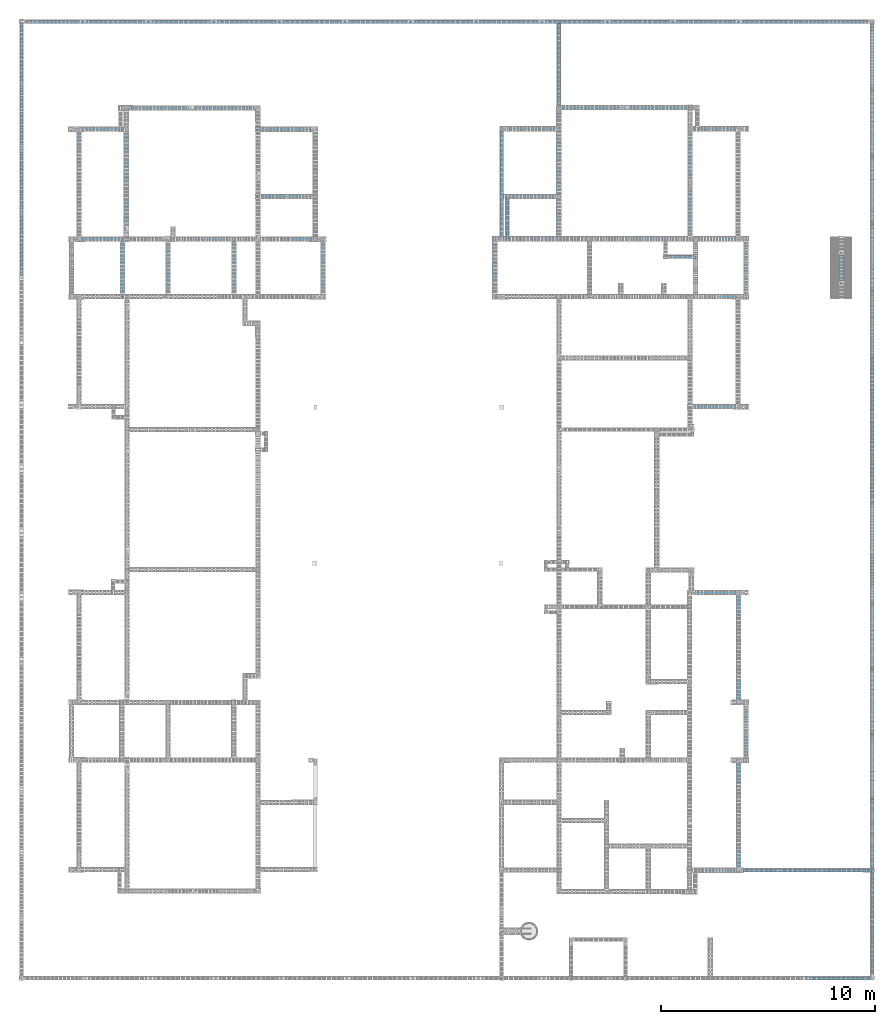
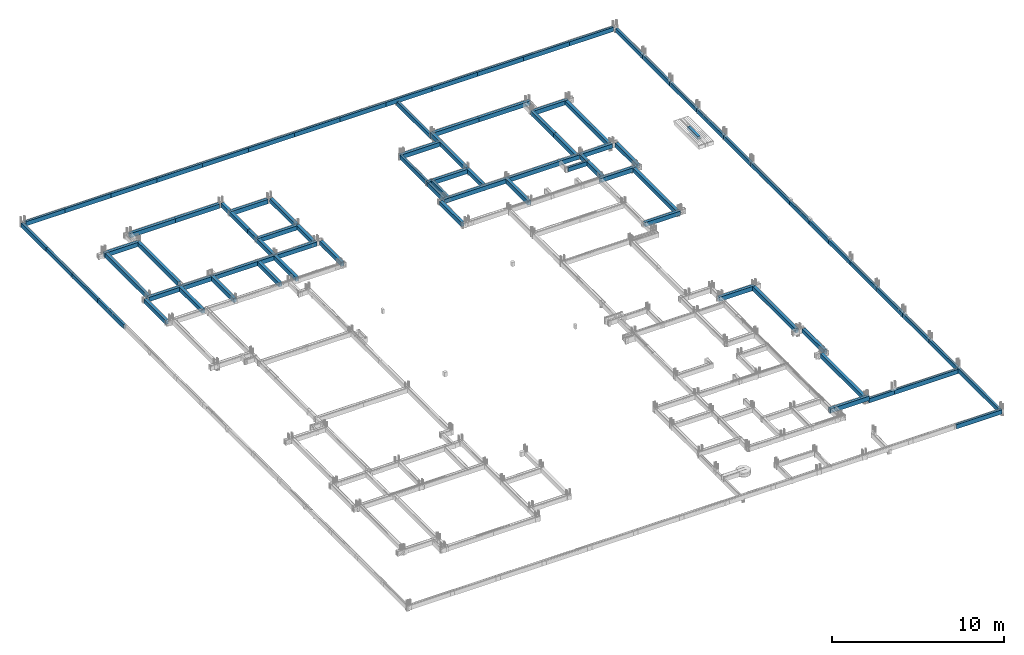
# One storey, part 4 of 150: 84 beams.
"""IFC4 building model written with IfcOpenShell, lengths in centimetres."""

from ifc_helpers import new_model, si_unit, derived_unit, frame, origin_with_axes, origin_2d_with_axis, place, context, project, spatial, rectangle, extrude, material, element, save


model = new_model("IFC4")

# Units and contexts
model_context = context("Model", 3, precision=1e-05, world=origin_with_axes(), identifier="Body")
ifc_project = project(units=[si_unit("LENGTHUNIT", "METRE", prefix="CENTI"), si_unit("VOLUMEUNIT", "CUBIC_METRE"), si_unit("AREAUNIT", "SQUARE_METRE"), si_unit("POWERUNIT", "WATT"), si_unit("LUMINOUSFLUXUNIT", "LUMEN"), si_unit("ELECTRICCURRENTUNIT", "AMPERE"), si_unit("PRESSUREUNIT", "PASCAL", prefix="KILO"), si_unit("MASSUNIT", "GRAM", prefix="KILO"), si_unit("PLANEANGLEUNIT", "RADIAN"), derived_unit("VOLUMETRICFLOWRATEUNIT", [(si_unit("LENGTHUNIT", "METRE"), 3), (si_unit("TIMEUNIT", "SECOND"), -1)])], contexts=[model_context])

# Site, building, storey
site_placement = place(None, frame((-4000.0, 0.0, 0.0), z_axis=(0.0, 0.0, 1.0), x_axis=(1.0, 0.0, 0.0)))
site = spatial("IfcSite", under=ifc_project, at=site_placement, Name="PADRÃO")
building_placement = place(site_placement, frame((0.0, 0.0, -14.0)))
building = spatial("IfcBuilding", under=site, at=building_placement, Name="CRECHE PRÉ-ESCOLA TIPO 2")
placement = place(building_placement, origin_with_axes())
storey_placement = place(placement, frame((0.0, 0.0, 30.0), z_axis=(0.0, 0.0, 1.0), x_axis=(1.0, 0.0, 0.0)))
storey = spatial("IfcBuildingStorey", under=building, at=storey_placement, Name="VIGA BALDRAME", CompositionType="ELEMENT", Elevation=16.0)

# Beams
ifc_material = material(Name="Concreto")
beam_1_placement = place(storey_placement, frame((2289.995, 4486.5, 0.0), z_axis=(0.0, 0.0, 1.0), x_axis=(1.0, 0.0, 0.0)))
element("IfcBeam", 1, at=beam_1_placement, inside=storey, material=ifc_material, Name="V101", context=model_context, shape_type="SolidModel", body=[
    extrude(rectangle(XDim=15.0, YDim=30.0, at=origin_2d_with_axis()), frame((-154.005, 0.0, -15.0), z_axis=(1.0, 0.0, 0.0), x_axis=(0.0, 1.0, 0.0)), (0.0, 0.0, 1.0), 308.01),
])
for number, where, z_axis, x_axis, name in (
    (2, (1369.5, 4486.5, 0.0), (0.0, 0.0, 1.0), (1.0, 0.0, 0.0), "V101"),
    (3, (1062.5, 4486.5, 0.0), (0.0, 0.0, 1.0), (1.0, 0.0, 0.0), "V101"),
    (4, (755.5, 4486.5, 0.0), (0.0, 0.0, 1.0), (1.0, 0.0, 0.0), "V101"),
):
    element("IfcBeam", number, at=place(storey_placement, frame(where, z_axis=z_axis, x_axis=x_axis)), inside=storey, material=ifc_material, Name=name, context=model_context, shape_type="SolidModel", body=[
        extrude(rectangle(XDim=15.0, YDim=30.0, at=origin_2d_with_axis()), frame((-153.5, 0.0, -15.0), z_axis=(1.0, 0.0, 0.0), x_axis=(0.0, 1.0, 0.0)), (0.0, 0.0, 1.0), 307.0),
    ])
beam_2_placement = place(storey_placement, frame((1982.995, 4486.5, 0.0), z_axis=(0.0, 0.0, 1.0), x_axis=(1.0, 0.0, 0.0)))
element("IfcBeam", 5, at=beam_2_placement, inside=storey, material=ifc_material, Name="V101", context=model_context, shape_type="SolidModel", body=[
    extrude(rectangle(XDim=15.0, YDim=30.0, at=origin_2d_with_axis()), frame((-152.995, 0.0, -15.0), z_axis=(1.0, 0.0, 0.0), x_axis=(0.0, 1.0, 0.0)), (0.0, 0.0, 1.0), 305.99),
])
for number, where, z_axis, x_axis, name in (
    (6, (448.5, 4486.5, 0.0), (0.0, 0.0, 1.0), (1.0, 0.0, 0.0), "V101"),
    (7, (3518.5, 4486.5, 0.0), (0.0, 0.0, 1.0), (1.0, 0.0, 0.0), "V101"),
):
    element("IfcBeam", number, at=place(storey_placement, frame(where, z_axis=z_axis, x_axis=x_axis)), inside=storey, material=ifc_material, Name=name, context=model_context, shape_type="SolidModel", body=[
        extrude(rectangle(XDim=15.0, YDim=30.0, at=origin_2d_with_axis()), frame((-153.5, 0.0, -15.0), z_axis=(1.0, 0.0, 0.0), x_axis=(0.0, 1.0, 0.0)), (0.0, 0.0, 1.0), 307.0),
    ])
beam_3_placement = place(storey_placement, frame((3820.5, 4486.5, 0.0), z_axis=(0.0, 0.0, 1.0), x_axis=(1.0, 0.0, 0.0)))
element("IfcBeam", 8, at=beam_3_placement, inside=storey, material=ifc_material, Name="V101", context=model_context, shape_type="SolidModel", body=[
    extrude(rectangle(XDim=15.0, YDim=30.0, at=origin_2d_with_axis()), frame((-148.5, 0.0, -15.0), z_axis=(1.0, 0.0, 0.0), x_axis=(0.0, 1.0, 0.0)), (0.0, 0.0, 1.0), 297.0),
])
for number, where, z_axis, x_axis, name in (
    (9, (1676.5, 4486.5, 0.0), (0.0, 0.0, 1.0), (1.0, 0.0, 0.0), "V101"),
    (10, (3211.5, 4486.5, 0.0), (0.0, 0.0, 1.0), (1.0, 0.0, 0.0), "V101"),
    (11, (2904.5, 4486.5, 0.0), (0.0, 0.0, 1.0), (1.0, 0.0, 0.0), "V101"),
    (12, (2597.5, 4486.5, 0.0), (0.0, 0.0, 1.0), (1.0, 0.0, 0.0), "V101"),
):
    element("IfcBeam", number, at=place(storey_placement, frame(where, z_axis=z_axis, x_axis=x_axis)), inside=storey, material=ifc_material, Name=name, context=model_context, shape_type="SolidModel", body=[
        extrude(rectangle(XDim=15.0, YDim=30.0, at=origin_2d_with_axis()), frame((-153.5, 0.0, -15.0), z_axis=(1.0, 0.0, 0.0), x_axis=(0.0, 1.0, 0.0)), (0.0, 0.0, 1.0), 307.0),
    ])
beam_4_placement = place(storey_placement, frame((163.25, 4486.5, 0.0), z_axis=(0.0, 0.0, 1.0), x_axis=(1.0, 0.0, 0.0)))
element("IfcBeam", 13, at=beam_4_placement, inside=storey, material=ifc_material, Name="V101", context=model_context, shape_type="SolidModel", body=[
    extrude(rectangle(XDim=15.0, YDim=30.0, at=origin_2d_with_axis()), frame((-131.75, 0.0, -15.0), z_axis=(1.0, 0.0, 0.0), x_axis=(0.0, 1.0, 0.0)), (0.0, 0.0, 1.0), 263.5),
])
beam_5_placement = place(storey_placement, frame((947.28, 4082.49, 0.0), z_axis=(0.0, 0.0, 1.0), x_axis=(1.0, 0.0, 0.0)))
element("IfcBeam", 14, at=beam_5_placement, inside=storey, material=ifc_material, Name="V102", context=model_context, shape_type="SolidModel", body=[
    extrude(rectangle(XDim=20.0, YDim=30.0, at=origin_2d_with_axis()), frame((-147.43, 0.0, -15.0), z_axis=(1.0, 0.0, 0.0), x_axis=(0.0, 1.0, 0.0)), (0.0, 0.0, 1.0), 294.86),
])
beam_6_placement = place(storey_placement, frame((647.26, 4082.49, 0.0), z_axis=(0.0, 0.0, 1.0), x_axis=(1.0, 0.0, 0.0)))
element("IfcBeam", 15, at=beam_6_placement, inside=storey, material=ifc_material, Name="V102", context=model_context, shape_type="SolidModel", body=[
    extrude(rectangle(XDim=20.0, YDim=30.0, at=origin_2d_with_axis()), frame((-152.59, 0.0, -15.0), z_axis=(1.0, 0.0, 0.0), x_axis=(0.0, 1.0, 0.0)), (0.0, 0.0, 1.0), 305.18),
])
beam_7_placement = place(storey_placement, frame((3005.24, 4085.02, 0.0), z_axis=(0.0, 0.0, 1.0), x_axis=(1.0, 0.0, 0.0)))
element("IfcBeam", 16, at=beam_7_placement, inside=storey, material=ifc_material, Name="V103", context=model_context, shape_type="SolidModel", body=[
    extrude(rectangle(XDim=20.0, YDim=30.0, at=origin_2d_with_axis()), frame((-173.26, 0.0, -15.0), z_axis=(1.0, 0.0, 0.0), x_axis=(0.0, 1.0, 0.0)), (0.0, 0.0, 1.0), 346.52),
])
beam_8_placement = place(storey_placement, frame((2680.74, 4085.02, 0.0), z_axis=(0.0, 0.0, 1.0), x_axis=(1.0, 0.0, 0.0)))
element("IfcBeam", 17, at=beam_8_placement, inside=storey, material=ifc_material, Name="V103", context=model_context, shape_type="SolidModel", body=[
    extrude(rectangle(XDim=20.0, YDim=30.0, at=origin_2d_with_axis()), frame((-151.24, 0.0, -15.0), z_axis=(1.0, 0.0, 0.0), x_axis=(0.0, 1.0, 0.0)), (0.0, 0.0, 1.0), 302.48),
])
beam_9_placement = place(storey_placement, frame((381.835, 3983.75, 0.0), z_axis=(0.0, 0.0, 1.0), x_axis=(1.0, 0.0, 0.0)))
element("IfcBeam", 18, at=beam_9_placement, inside=storey, material=ifc_material, Name="V104", context=model_context, shape_type="SolidModel", body=[
    extrude(rectangle(XDim=20.0, YDim=30.0, at=origin_2d_with_axis()), frame((-114.835, 0.0, -15.0), z_axis=(1.0, 0.0, 0.0), x_axis=(0.0, 1.0, 0.0)), (0.0, 0.0, 1.0), 229.67),
])
beam_10_placement = place(storey_placement, frame((1238.92, 3982.5, 0.0), z_axis=(0.0, 0.0, 1.0), x_axis=(1.0, 0.0, 0.0)))
element("IfcBeam", 19, at=beam_10_placement, inside=storey, material=ifc_material, Name="V105", context=model_context, shape_type="SolidModel", body=[
    extrude(rectangle(XDim=20.0, YDim=30.0, at=origin_2d_with_axis()), frame((-122.92, 0.0, -15.0), z_axis=(1.0, 0.0, 0.0), x_axis=(0.0, 1.0, 0.0)), (0.0, 0.0, 1.0), 245.84),
])
beam_11_placement = place(storey_placement, frame((2383.145, 3985.0, 0.0), z_axis=(0.0, 0.0, 1.0), x_axis=(1.0, 0.0, 0.0)))
element("IfcBeam", 20, at=beam_11_placement, inside=storey, material=ifc_material, Name="V106", context=model_context, shape_type="SolidModel", body=[
    extrude(rectangle(XDim=20.0, YDim=30.0, at=origin_2d_with_axis()), frame((-131.385, 0.0, -15.0), z_axis=(1.0, 0.0, 0.0), x_axis=(0.0, 1.0, 0.0)), (0.0, 0.0, 1.0), 262.77),
])
beam_12_placement = place(storey_placement, frame((3260.25, 3985.01, 0.0), z_axis=(0.0, 0.0, 1.0), x_axis=(1.0, 0.0, 0.0)))
element("IfcBeam", 21, at=beam_12_placement, inside=storey, material=ifc_material, Name="V107", context=model_context, shape_type="SolidModel", body=[
    extrude(rectangle(XDim=20.0, YDim=30.0, at=origin_2d_with_axis()), frame((-114.75, 0.0, -15.0), z_axis=(1.0, 0.0, 0.0), x_axis=(0.0, 1.0, 0.0)), (0.0, 0.0, 1.0), 229.5),
])
beam_13_placement = place(storey_placement, frame((1253.92, 3667.57, 0.0), z_axis=(0.0, 0.0, 1.0), x_axis=(1.0, 0.0, 0.0)))
element("IfcBeam", 22, at=beam_13_placement, inside=storey, material=ifc_material, Name="V108", context=model_context, shape_type="SolidModel", body=[
    extrude(rectangle(XDim=20.0, YDim=30.0, at=origin_2d_with_axis()), frame((-137.92, 0.0, -15.0), z_axis=(1.0, 0.0, 0.0), x_axis=(0.0, 1.0, 0.0)), (0.0, 0.0, 1.0), 275.84),
])
beam_14_placement = place(storey_placement, frame((2389.12945103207, 3667.73458821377, 0.0), z_axis=(0.0, 0.0, 1.0), x_axis=(1.0, 0.0, 0.0)))
element("IfcBeam", 23, at=beam_14_placement, inside=storey, material=ifc_material, Name="V109", context=model_context, shape_type="SolidModel", body=[
    extrude(rectangle(XDim=20.0, YDim=30.0, at=origin_2d_with_axis()), frame((-140.37054896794, -0.015411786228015, -15.0), z_axis=(1.0, 0.00010979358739, 0.0), x_axis=(-0.00010979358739, 1.0, 0.0)), (0.0, 0.0, 1.0), 280.741099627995),
])
beam_15_placement = place(storey_placement, frame((476.005, 3469.0, 0.0), z_axis=(0.0, 0.0, 1.0), x_axis=(1.0, 0.0, 0.0)))
element("IfcBeam", 24, at=beam_15_placement, inside=storey, material=ifc_material, Name="V110", context=model_context, shape_type="SolidModel", body=[
    extrude(rectangle(XDim=20.0, YDim=30.0, at=origin_2d_with_axis()), frame((-208.995, 0.0, -15.0), z_axis=(1.0, 0.0, 0.0), x_axis=(0.0, 1.0, 0.0)), (0.0, 0.0, 1.0), 417.99),
])
beam_16_placement = place(storey_placement, frame((898.36, 3469.0, 0.0), z_axis=(0.0, 0.0, 1.0), x_axis=(1.0, 0.0, 0.0)))
element("IfcBeam", 25, at=beam_16_placement, inside=storey, material=ifc_material, Name="V110", context=model_context, shape_type="SolidModel", body=[
    extrude(rectangle(XDim=20.0, YDim=30.0, at=origin_2d_with_axis()), frame((-213.36, 0.0, -15.0), z_axis=(1.0, 0.0, 0.0), x_axis=(0.0, 1.0, 0.0)), (0.0, 0.0, 1.0), 426.72),
])
beam_17_placement = place(storey_placement, frame((1259.28, 3469.0, 0.0), z_axis=(0.0, 0.0, 1.0), x_axis=(1.0, 0.0, 0.0)))
element("IfcBeam", 26, at=beam_17_placement, inside=storey, material=ifc_material, Name="V110", context=model_context, shape_type="SolidModel", body=[
    extrude(rectangle(XDim=20.0, YDim=30.0, at=origin_2d_with_axis()), frame((-133.56, 0.0, -15.0), z_axis=(1.0, 0.0, 0.0), x_axis=(0.0, 1.0, 0.0)), (0.0, 0.0, 1.0), 267.12),
])
beam_18_placement = place(storey_placement, frame((2915.75, 3470.015, 0.0), z_axis=(0.0, 0.0, 1.0), x_axis=(1.0, 0.0, 0.0)))
element("IfcBeam", 27, at=beam_18_placement, inside=storey, material=ifc_material, Name="V111", context=model_context, shape_type="SolidModel", body=[
    extrude(rectangle(XDim=20.0, YDim=30.0, at=origin_2d_with_axis()), frame((-247.75, 0.005, -15.0), z_axis=(1.0, -2.0181634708e-05, 0.0), x_axis=(2.0181634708e-05, 1.0, 0.0)), (0.0, 0.0, 1.0), 495.5),
])
beam_19_placement = place(storey_placement, frame((3268.0, 3470.01, 0.0), z_axis=(0.0, 0.0, 1.0), x_axis=(1.0, 0.0, 0.0)))
element("IfcBeam", 28, at=beam_19_placement, inside=storey, material=ifc_material, Name="V111", context=model_context, shape_type="SolidModel", body=[
    extrude(rectangle(XDim=20.0, YDim=30.0, at=origin_2d_with_axis()), frame((-104.5, 0.0, -15.0), z_axis=(1.0, 0.0, 0.0), x_axis=(0.0, 1.0, 0.0)), (0.0, 0.0, 1.0), 209.0),
])
beam_20_placement = place(storey_placement, frame((2458.38, 3470.02, 0.0), z_axis=(0.0, 0.0, 1.0), x_axis=(1.0, 0.0, 0.0)))
element("IfcBeam", 29, at=beam_20_placement, inside=storey, material=ifc_material, Name="V111", context=model_context, shape_type="SolidModel", body=[
    extrude(rectangle(XDim=20.0, YDim=30.0, at=origin_2d_with_axis()), frame((-209.62, 0.0, -15.0), z_axis=(1.0, 0.0, 0.0), x_axis=(0.0, 1.0, 0.0)), (0.0, 0.0, 1.0), 419.24),
])
beam_21_placement = place(storey_placement, frame((3097.5, 3386.52, 0.0), z_axis=(0.0, 0.0, 1.0), x_axis=(1.0, 0.0, 0.0)))
element("IfcBeam", 30, at=beam_21_placement, inside=storey, material=ifc_material, Name="V112", context=model_context, shape_type="SolidModel", body=[
    extrude(rectangle(XDim=15.0, YDim=30.0, at=origin_2d_with_axis()), frame((-66.5, 0.0, -15.0), z_axis=(1.0, 0.0, 0.0), x_axis=(0.0, 1.0, 0.0)), (0.0, 0.0, 1.0), 133.0),
])
beam_22_placement = place(storey_placement, frame((3255.5, 3200.02, 0.0), z_axis=(0.0, 0.0, 1.0), x_axis=(1.0, 0.0, 0.0)))
element("IfcBeam", 31, at=beam_22_placement, inside=storey, material=ifc_material, Name="V114", context=model_context, shape_type="SolidModel", body=[
    extrude(rectangle(XDim=20.0, YDim=30.0, at=origin_2d_with_axis()), frame((-117.0, 0.0, -15.0), z_axis=(1.0, 0.0, 0.0), x_axis=(0.0, 1.0, 0.0)), (0.0, 0.0, 1.0), 234.0),
])
beam_23_placement = place(storey_placement, frame((3257.25, 2685.02, 0.0), z_axis=(0.0, 0.0, 1.0), x_axis=(1.0, 0.0, 0.0)))
element("IfcBeam", 32, at=beam_23_placement, inside=storey, material=ifc_material, Name="V118", context=model_context, shape_type="SolidModel", body=[
    extrude(rectangle(XDim=20.0, YDim=30.0, at=origin_2d_with_axis()), frame((-118.75, 0.0, -15.0), z_axis=(1.0, 0.0, 0.0), x_axis=(0.0, 1.0, 0.0)), (0.0, 0.0, 1.0), 237.5),
])
beam_24_placement = place(storey_placement, frame((3252.5, 1815.02, 0.0), z_axis=(0.0, 0.0, 1.0), x_axis=(1.0, 0.0, 0.0)))
element("IfcBeam", 33, at=beam_24_placement, inside=storey, material=ifc_material, Name="V131", context=model_context, shape_type="SolidModel", body=[
    extrude(rectangle(XDim=20.0, YDim=30.0, at=origin_2d_with_axis()), frame((-120.0, 0.0, -15.0), z_axis=(1.0, 0.0, 0.0), x_axis=(0.0, 1.0, 0.0)), (0.0, 0.0, 1.0), 240.0),
])
beam_25_placement = place(storey_placement, frame((3256.75, 515.01, 0.0), z_axis=(0.0, 0.0, 1.0), x_axis=(1.0, 0.0, 0.0)))
element("IfcBeam", 34, at=beam_25_placement, inside=storey, material=ifc_material, Name="V152", context=model_context, shape_type="SolidModel", body=[
    extrude(rectangle(XDim=20.0, YDim=30.0, at=origin_2d_with_axis()), frame((-130.75, 0.0, -15.0), z_axis=(1.0, 0.0, 0.0), x_axis=(0.0, 1.0, 0.0)), (0.0, 0.0, 1.0), 261.5),
])
beam_26_placement = place(storey_placement, frame((3471.75, 515.01, -20.0), z_axis=(0.0, 0.0, 1.0), x_axis=(1.0, 0.0, 0.0)))
element("IfcBeam", 35, at=beam_26_placement, inside=storey, material=ifc_material, Name="V153", context=model_context, shape_type="SolidModel", body=[
    extrude(rectangle(XDim=15.0, YDim=30.0, at=origin_2d_with_axis()), frame((-84.25, 0.0, -15.0), z_axis=(1.0, 0.0, 0.0), x_axis=(0.0, 1.0, 0.0)), (0.0, 0.0, 1.0), 168.5),
])
beam_27_placement = place(storey_placement, frame((3771.0, 515.01, -20.0), z_axis=(0.0, 0.0, 1.0), x_axis=(1.0, 0.0, 0.0)))
element("IfcBeam", 36, at=beam_27_placement, inside=storey, material=ifc_material, Name="V153", context=model_context, shape_type="SolidModel", body=[
    extrude(rectangle(XDim=15.0, YDim=30.0, at=origin_2d_with_axis()), frame((-215.0, 0.0, -15.0), z_axis=(1.0, 0.0, 0.0), x_axis=(0.0, 1.0, 0.0)), (0.0, 0.0, 1.0), 430.0),
])
beam_28_placement = place(storey_placement, frame((3833.25, 9.5, 0.0), z_axis=(0.0, 0.0, 1.0), x_axis=(1.0, 0.0, 0.0)))
element("IfcBeam", 37, at=beam_28_placement, inside=storey, material=ifc_material, Name="V158", context=model_context, shape_type="SolidModel", body=[
    extrude(rectangle(XDim=15.0, YDim=30.0, at=origin_2d_with_axis()), frame((-151.75, 0.0, -15.0), z_axis=(1.0, 0.0, 0.0), x_axis=(0.0, 1.0, 0.0)), (0.0, 0.0, 1.0), 303.5),
])
for number, where, z_axis, x_axis, name in (
    (38, (9.0, 3744.5, 0.0), (0.0, 0.0, 1.0), (1.0, 0.0, 0.0), "V159"),
    (39, (9.0, 3444.5, 0.0), (0.0, 0.0, 1.0), (1.0, 0.0, 0.0), "V159"),
):
    element("IfcBeam", number, at=place(storey_placement, frame(where, z_axis=z_axis, x_axis=x_axis)), inside=storey, material=ifc_material, Name=name, context=model_context, shape_type="SolidModel", body=[
        extrude(rectangle(XDim=15.0, YDim=30.0, at=origin_2d_with_axis()), frame((0.0, -150.0, -15.0), z_axis=(0.0, 1.0, 0.0), x_axis=(-1.0, 0.0, 0.0)), (0.0, 0.0, 1.0), 300.0),
    ])
beam_29_placement = place(storey_placement, frame((9.0, 4338.0, 0.0), z_axis=(0.0, 0.0, 1.0), x_axis=(1.0, 0.0, 0.0)))
element("IfcBeam", 40, at=beam_29_placement, inside=storey, material=ifc_material, Name="V159", context=model_context, shape_type="SolidModel", body=[
    extrude(rectangle(XDim=15.0, YDim=30.0, at=origin_2d_with_axis()), frame((0.0, -143.5, -15.0), z_axis=(0.0, 1.0, 0.0), x_axis=(-1.0, 0.0, 0.0)), (0.0, 0.0, 1.0), 287.0),
])
beam_30_placement = place(storey_placement, frame((9.0, 4044.5, 0.0), z_axis=(0.0, 0.0, 1.0), x_axis=(1.0, 0.0, 0.0)))
element("IfcBeam", 41, at=beam_30_placement, inside=storey, material=ifc_material, Name="V159", context=model_context, shape_type="SolidModel", body=[
    extrude(rectangle(XDim=15.0, YDim=30.0, at=origin_2d_with_axis()), frame((0.0, -150.0, -15.0), z_axis=(0.0, 1.0, 0.0), x_axis=(-1.0, 0.0, 0.0)), (0.0, 0.0, 1.0), 300.0),
])
beam_31_placement = place(storey_placement, frame((243.74, 3334.51, 0.0), z_axis=(0.0, 0.0, 1.0), x_axis=(1.0, 0.0, 0.0)))
element("IfcBeam", 42, at=beam_31_placement, inside=storey, material=ifc_material, Name="V164", context=model_context, shape_type="SolidModel", body=[
    extrude(rectangle(XDim=20.0, YDim=30.0, at=origin_2d_with_axis()), frame((0.0, -124.49, -15.0), z_axis=(0.0, 1.0, 0.0), x_axis=(-1.0, 0.0, 0.0)), (0.0, 0.0, 1.0), 248.98),
])
beam_32_placement = place(storey_placement, frame((279.0, 3728.25, 0.0), z_axis=(0.0, 0.0, 1.0), x_axis=(1.0, 0.0, 0.0)))
element("IfcBeam", 43, at=beam_32_placement, inside=storey, material=ifc_material, Name="V165", context=model_context, shape_type="SolidModel", body=[
    extrude(rectangle(XDim=20.0, YDim=30.0, at=origin_2d_with_axis()), frame((0.0, -249.75, -15.0), z_axis=(0.0, 1.0, 0.0), x_axis=(-1.0, 0.0, 0.0)), (0.0, 0.0, 1.0), 499.5),
])
beam_33_placement = place(storey_placement, frame((482.19, 3334.51, 0.0), z_axis=(0.0, 0.0, 1.0), x_axis=(1.0, 0.0, 0.0)))
element("IfcBeam", 44, at=beam_33_placement, inside=storey, material=ifc_material, Name="V172", context=model_context, shape_type="SolidModel", body=[
    extrude(rectangle(XDim=20.0, YDim=30.0, at=origin_2d_with_axis()), frame((0.0, -134.49, -15.0), z_axis=(0.0, 1.0, 0.0), x_axis=(-1.0, 0.0, 0.0)), (0.0, 0.0, 1.0), 268.98),
])
beam_34_placement = place(storey_placement, frame((500.19, 3750.0, 0.0), z_axis=(0.0, 0.0, 1.0), x_axis=(1.0, 0.0, 0.0)))
element("IfcBeam", 45, at=beam_34_placement, inside=storey, material=ifc_material, Name="V173", context=model_context, shape_type="SolidModel", body=[
    extrude(rectangle(XDim=20.0, YDim=30.0, at=origin_2d_with_axis()), frame((0.0, -241.5, -15.0), z_axis=(0.0, 1.0, 0.0), x_axis=(-1.0, 0.0, 0.0)), (0.0, 0.0, 1.0), 483.0),
])
beam_35_placement = place(storey_placement, frame((695.73, 3334.99, 0.0), z_axis=(0.0, 0.0, 1.0), x_axis=(1.0, 0.0, 0.0)))
element("IfcBeam", 46, at=beam_35_placement, inside=storey, material=ifc_material, Name="V176", context=model_context, shape_type="SolidModel", body=[
    extrude(rectangle(XDim=20.0, YDim=30.0, at=origin_2d_with_axis()), frame((0.0, -130.5, -15.0), z_axis=(0.0, 1.0, 0.0), x_axis=(-1.0, 0.0, 0.0)), (0.0, 0.0, 1.0), 261.0),
])
beam_36_placement = place(storey_placement, frame((1003.73, 3334.51, 0.0), z_axis=(0.0, 0.0, 1.0), x_axis=(1.0, 0.0, 0.0)))
element("IfcBeam", 47, at=beam_36_placement, inside=storey, material=ifc_material, Name="V179", context=model_context, shape_type="SolidModel", body=[
    extrude(rectangle(XDim=20.0, YDim=30.0, at=origin_2d_with_axis()), frame((0.0, -124.49, -15.0), z_axis=(0.0, 1.0, 0.0), x_axis=(-1.0, 0.0, 0.0)), (0.0, 0.0, 1.0), 248.98),
])
beam_37_placement = place(storey_placement, frame((1116.0, 3922.89, 0.0), z_axis=(0.0, 0.0, 1.0), x_axis=(1.0, 0.0, 0.0)))
element("IfcBeam", 48, at=beam_37_placement, inside=storey, material=ifc_material, Name="V185", context=model_context, shape_type="SolidModel", body=[
    extrude(rectangle(XDim=20.0, YDim=30.0, at=origin_2d_with_axis()), frame((0.0, -155.11, -15.0), z_axis=(0.0, 1.0, 0.0), x_axis=(-1.0, 0.0, 0.0)), (0.0, 0.0, 1.0), 310.22),
])
beam_38_placement = place(storey_placement, frame((1116.0, 3618.89, 0.0), z_axis=(0.0, 0.0, 1.0), x_axis=(1.0, 0.0, 0.0)))
element("IfcBeam", 49, at=beam_38_placement, inside=storey, material=ifc_material, Name="V185", context=model_context, shape_type="SolidModel", body=[
    extrude(rectangle(XDim=20.0, YDim=30.0, at=origin_2d_with_axis()), frame((0.0, -148.89, -15.0), z_axis=(0.0, 1.0, 0.0), x_axis=(-1.0, 0.0, 0.0)), (0.0, 0.0, 1.0), 297.78),
])
beam_39_placement = place(storey_placement, frame((1116.0, 3340.01, 0.0), z_axis=(0.0, 0.0, 1.0), x_axis=(1.0, 0.0, 0.0)))
element("IfcBeam", 50, at=beam_39_placement, inside=storey, material=ifc_material, Name="V185", context=model_context, shape_type="SolidModel", body=[
    extrude(rectangle(XDim=20.0, YDim=30.0, at=origin_2d_with_axis()), frame((0.0, -129.99, -15.0), z_axis=(0.0, 1.0, 0.0), x_axis=(-1.0, 0.0, 0.0)), (0.0, 0.0, 1.0), 259.98),
])
beam_40_placement = place(storey_placement, frame((1421.03, 3334.51, 0.0), z_axis=(0.0, 0.0, 1.0), x_axis=(1.0, 0.0, 0.0)))
element("IfcBeam", 51, at=beam_40_placement, inside=storey, material=ifc_material, Name="V187", context=model_context, shape_type="SolidModel", body=[
    extrude(rectangle(XDim=20.0, YDim=30.0, at=origin_2d_with_axis()), frame((0.0, -124.49, -15.0), z_axis=(0.0, 1.0, 0.0), x_axis=(-1.0, 0.0, 0.0)), (0.0, 0.0, 1.0), 248.98),
])
beam_41_placement = place(storey_placement, frame((1384.49, 3573.01, 0.0), z_axis=(0.0, 0.0, 1.0), x_axis=(1.0, 0.0, 0.0)))
element("IfcBeam", 52, at=beam_41_placement, inside=storey, material=ifc_material, Name="V188", context=model_context, shape_type="SolidModel", body=[
    extrude(rectangle(XDim=20.0, YDim=30.0, at=origin_2d_with_axis()), frame((0.0, -94.49, -15.0), z_axis=(0.0, 1.0, 0.0), x_axis=(-1.0, 0.0, 0.0)), (0.0, 0.0, 1.0), 188.98),
])
beam_42_placement = place(storey_placement, frame((1384.49, 3822.75, 0.0), z_axis=(0.0, 0.0, 1.0), x_axis=(1.0, 0.0, 0.0)))
element("IfcBeam", 53, at=beam_42_placement, inside=storey, material=ifc_material, Name="V188", context=model_context, shape_type="SolidModel", body=[
    extrude(rectangle(XDim=20.0, YDim=30.0, at=origin_2d_with_axis()), frame((0.0, -155.25, -15.0), z_axis=(0.0, 1.0, 0.0), x_axis=(-1.0, 0.0, 0.0)), (0.0, 0.0, 1.0), 310.5),
])
beam_43_placement = place(storey_placement, frame((2224.53, 3335.02, 0.0), z_axis=(0.0, 0.0, 1.0), x_axis=(1.0, 0.0, 0.0)))
element("IfcBeam", 54, at=beam_43_placement, inside=storey, material=ifc_material, Name="V191", context=model_context, shape_type="SolidModel", body=[
    extrude(rectangle(XDim=20.0, YDim=30.0, at=origin_2d_with_axis()), frame((0.0, -125.0, -15.0), z_axis=(0.0, 1.0, 0.0), x_axis=(1.0, 0.0, 0.0)), (0.0, 0.0, 1.0), 250.0),
])
beam_44_placement = place(storey_placement, frame((2283.5, 3568.885, 0.0), z_axis=(0.0, 0.0, 1.0), x_axis=(1.0, 0.0, 0.0)))
element("IfcBeam", 55, at=beam_44_placement, inside=storey, material=ifc_material, Name="V192", context=model_context, shape_type="SolidModel", body=[
    extrude(rectangle(XDim=15.0, YDim=30.0, at=origin_2d_with_axis()), frame((0.0, -98.865, -15.0), z_axis=(0.0, 1.0, 0.0), x_axis=(1.0, 0.0, 0.0)), (0.0, 0.0, 1.0), 197.73),
])
beam_45_placement = place(storey_placement, frame((2256.26, 3727.51, 0.0), z_axis=(0.0, 0.0, 1.0), x_axis=(1.0, 0.0, 0.0)))
element("IfcBeam", 56, at=beam_45_placement, inside=storey, material=ifc_material, Name="V193", context=model_context, shape_type="SolidModel", body=[
    extrude(rectangle(XDim=15.0, YDim=30.0, at=origin_2d_with_axis()), frame((0.0, -248.99, -15.0), z_axis=(0.0, 1.0, 0.0), x_axis=(1.0, 0.0, 0.0)), (0.0, 0.0, 1.0), 497.98),
])
beam_46_placement = place(storey_placement, frame((2524.53, 3879.885, 0.0), z_axis=(0.0, 0.0, 1.0), x_axis=(1.0, 0.0, 0.0)))
element("IfcBeam", 57, at=beam_46_placement, inside=storey, material=ifc_material, Name="V199", context=model_context, shape_type="SolidModel", body=[
    extrude(rectangle(XDim=20.0, YDim=30.0, at=origin_2d_with_axis()), frame((0.0, -212.135, -15.0), z_axis=(0.0, 1.0, 0.0), x_axis=(1.0, 0.0, 0.0)), (0.0, 0.0, 1.0), 424.27),
])
beam_47_placement = place(storey_placement, frame((2524.53, 3573.885, 0.0), z_axis=(0.0, 0.0, 1.0), x_axis=(1.0, 0.0, 0.0)))
element("IfcBeam", 58, at=beam_47_placement, inside=storey, material=ifc_material, Name="V199", context=model_context, shape_type="SolidModel", body=[
    extrude(rectangle(XDim=20.0, YDim=30.0, at=origin_2d_with_axis()), frame((0.0, -93.865, -15.0), z_axis=(0.0, 1.0, 0.0), x_axis=(1.0, 0.0, 0.0)), (0.0, 0.0, 1.0), 187.73),
])
beam_48_placement = place(storey_placement, frame((2524.53, 4289.26, -20.0), z_axis=(0.0, 0.0, 1.0), x_axis=(1.0, 0.0, 0.0)))
element("IfcBeam", 59, at=beam_48_placement, inside=storey, material=ifc_material, Name="V200", context=model_context, shape_type="SolidModel", body=[
    extrude(rectangle(XDim=15.0, YDim=30.0, at=origin_2d_with_axis()), frame((0.0, -197.24, -15.0), z_axis=(0.0, 1.0, 0.0), x_axis=(-1.0, 0.0, 0.0)), (0.0, 0.0, 1.0), 394.48),
])
beam_49_placement = place(storey_placement, frame((2668.0, 3342.05, 0.0), z_axis=(0.0, 0.0, 1.0), x_axis=(1.0, 0.0, 0.0)))
element("IfcBeam", 60, at=beam_49_placement, inside=storey, material=ifc_material, Name="V202", context=model_context, shape_type="SolidModel", body=[
    extrude(rectangle(XDim=20.0, YDim=30.0, at=origin_2d_with_axis()), frame((0.0, -137.53, -15.0), z_axis=(0.0, 1.0, 0.0), x_axis=(1.0, 0.0, 0.0)), (0.0, 0.0, 1.0), 275.06),
])
beam_50_placement = place(storey_placement, frame((3164.0, 3344.8, 0.0), z_axis=(0.0, 0.0, 1.0), x_axis=(1.0, 0.0, 0.0)))
element("IfcBeam", 61, at=beam_50_placement, inside=storey, material=ifc_material, Name="V220", context=model_context, shape_type="SolidModel", body=[
    extrude(rectangle(XDim=20.0, YDim=30.0, at=origin_2d_with_axis()), frame((0.0, -134.78, -15.0), z_axis=(0.0, 1.0, 0.0), x_axis=(1.0, 0.0, 0.0)), (0.0, 0.0, 1.0), 269.56),
])
beam_51_placement = place(storey_placement, frame((3139.43, 3857.385, 0.0), z_axis=(0.0, 0.0, 1.0), x_axis=(1.0, 0.0, 0.0)))
element("IfcBeam", 62, at=beam_51_placement, inside=storey, material=ifc_material, Name="V221", context=model_context, shape_type="SolidModel", body=[
    extrude(rectangle(XDim=20.0, YDim=30.0, at=origin_2d_with_axis()), frame((0.0, -134.125, -15.0), z_axis=(0.0, 1.0, 0.0), x_axis=(1.0, 0.0, 0.0)), (0.0, 0.0, 1.0), 268.25),
])
beam_52_placement = place(storey_placement, frame((3139.43, 3596.635, 0.0), z_axis=(0.0, 0.0, 1.0), x_axis=(1.0, 0.0, 0.0)))
element("IfcBeam", 63, at=beam_52_placement, inside=storey, material=ifc_material, Name="V221", context=model_context, shape_type="SolidModel", body=[
    extrude(rectangle(XDim=20.0, YDim=30.0, at=origin_2d_with_axis()), frame((0.0, -126.625, -15.0), z_axis=(0.0, 1.0, 0.0), x_axis=(1.0, 0.0, 0.0)), (0.0, 0.0, 1.0), 253.25),
])
beam_53_placement = place(storey_placement, frame((3366.0, 771.795, 0.0), z_axis=(0.0, 0.0, 1.0), x_axis=(1.0, 0.0, 0.0)))
element("IfcBeam", 64, at=beam_53_placement, inside=storey, material=ifc_material, Name="V224", context=model_context, shape_type="SolidModel", body=[
    extrude(rectangle(XDim=20.0, YDim=30.0, at=origin_2d_with_axis()), frame((0.0, -249.785, -15.0), z_axis=(0.0, 1.0, 0.0), x_axis=(1.0, 0.0, 0.0)), (0.0, 0.0, 1.0), 499.57),
])
beam_54_placement = place(storey_placement, frame((3400.98, 1165.085, 0.0), z_axis=(0.0, 0.0, 1.0), x_axis=(1.0, 0.0, 0.0)))
element("IfcBeam", 65, at=beam_54_placement, inside=storey, material=ifc_material, Name="V225", context=model_context, shape_type="SolidModel", body=[
    extrude(rectangle(XDim=20.0, YDim=30.0, at=origin_2d_with_axis()), frame((0.0, -125.005, -15.0), z_axis=(0.0, 1.0, 0.0), x_axis=(1.0, 0.0, 0.0)), (0.0, 0.0, 1.0), 250.01),
])
beam_55_placement = place(storey_placement, frame((3366.0, 1557.555, 0.0), z_axis=(0.0, 0.0, 1.0), x_axis=(1.0, 0.0, 0.0)))
element("IfcBeam", 66, at=beam_55_placement, inside=storey, material=ifc_material, Name="V226", context=model_context, shape_type="SolidModel", body=[
    extrude(rectangle(XDim=20.0, YDim=30.0, at=origin_2d_with_axis()), frame((0.0, -248.965, -15.0), z_axis=(0.0, 1.0, 0.0), x_axis=(1.0, 0.0, 0.0)), (0.0, 0.0, 1.0), 497.93),
])
beam_56_placement = place(storey_placement, frame((3363.0, 2941.77, 0.0), z_axis=(0.0, 0.0, 1.0), x_axis=(1.0, 0.0, 0.0)))
element("IfcBeam", 67, at=beam_56_placement, inside=storey, material=ifc_material, Name="V227", context=model_context, shape_type="SolidModel", body=[
    extrude(rectangle(XDim=20.0, YDim=30.0, at=origin_2d_with_axis()), frame((0.0, -249.75, -15.0), z_axis=(0.0, 1.0, 0.0), x_axis=(1.0, 0.0, 0.0)), (0.0, 0.0, 1.0), 499.5),
])
beam_57_placement = place(storey_placement, frame((3400.98, 3335.01, 0.0), z_axis=(0.0, 0.0, 1.0), x_axis=(1.0, 0.0, 0.0)))
element("IfcBeam", 68, at=beam_57_placement, inside=storey, material=ifc_material, Name="V228", context=model_context, shape_type="SolidModel", body=[
    extrude(rectangle(XDim=20.0, YDim=30.0, at=origin_2d_with_axis()), frame((0.0, -125.0, -15.0), z_axis=(0.0, 1.0, 0.0), x_axis=(1.0, 0.0, 0.0)), (0.0, 0.0, 1.0), 250.0),
])
beam_58_placement = place(storey_placement, frame((3363.0, 3728.265, 0.0), z_axis=(0.0, 0.0, 1.0), x_axis=(1.0, 0.0, 0.0)))
element("IfcBeam", 69, at=beam_58_placement, inside=storey, material=ifc_material, Name="V229", context=model_context, shape_type="SolidModel", body=[
    extrude(rectangle(XDim=20.0, YDim=30.0, at=origin_2d_with_axis()), frame((0.0, -249.745, -15.0), z_axis=(0.0, 1.0, 0.0), x_axis=(1.0, 0.0, 0.0)), (0.0, 0.0, 1.0), 499.49),
])
beam_59_placement = place(storey_placement, frame((3991.5, 1611.11, -15.0), z_axis=(0.0, 0.0, 1.0), x_axis=(1.0, 0.0, 0.0)))
element("IfcBeam", 70, at=beam_59_placement, inside=storey, material=ifc_material, Name="V230", context=model_context, shape_type="SolidModel", body=[
    extrude(rectangle(XDim=15.0, YDim=30.0, at=origin_2d_with_axis()), frame((0.0, -153.0, -15.0), z_axis=(0.0, 1.0, 0.0), x_axis=(1.0, 0.0, 0.0)), (0.0, 0.0, 1.0), 306.0),
])
beam_60_placement = place(storey_placement, frame((3991.5, 1888.36, -15.0), z_axis=(0.0, 0.0, 1.0), x_axis=(1.0, 0.0, 0.0)))
element("IfcBeam", 71, at=beam_60_placement, inside=storey, material=ifc_material, Name="V230", context=model_context, shape_type="SolidModel", body=[
    extrude(rectangle(XDim=15.0, YDim=30.0, at=origin_2d_with_axis()), frame((0.0, -124.25, -15.0), z_axis=(0.0, 1.0, 0.0), x_axis=(1.0, 0.0, 0.0)), (0.0, 0.0, 1.0), 248.5),
])
for number, where, z_axis, x_axis, name in (
    (72, (3991.5, 2125.65, -15.0), (0.0, 0.0, 1.0), (1.0, 0.0, 0.0), "V230"),
    (73, (3991.5, 2351.73, -15.0), (0.0, 0.0, 1.0), (1.0, 0.0, 0.0), "V230"),
):
    element("IfcBeam", number, at=place(storey_placement, frame(where, z_axis=z_axis, x_axis=x_axis)), inside=storey, material=ifc_material, Name=name, context=model_context, shape_type="SolidModel", body=[
        extrude(rectangle(XDim=15.0, YDim=30.0, at=origin_2d_with_axis()), frame((0.0, -113.04, -15.0), z_axis=(0.0, 1.0, 0.0), x_axis=(1.0, 0.0, 0.0)), (0.0, 0.0, 1.0), 226.08),
    ])
beam_61_placement = place(storey_placement, frame((3991.5, 2689.635, -15.0), z_axis=(0.0, 0.0, 1.0), x_axis=(1.0, 0.0, 0.0)))
element("IfcBeam", 74, at=beam_61_placement, inside=storey, material=ifc_material, Name="V230", context=model_context, shape_type="SolidModel", body=[
    extrude(rectangle(XDim=15.0, YDim=30.0, at=origin_2d_with_axis()), frame((0.0, -224.865, -15.0), z_axis=(0.0, 1.0, 0.0), x_axis=(1.0, 0.0, 0.0)), (0.0, 0.0, 1.0), 449.73),
])
beam_62_placement = place(storey_placement, frame((3991.5, 684.31, -15.0), z_axis=(0.0, 0.0, 1.0), x_axis=(1.0, 0.0, 0.0)))
element("IfcBeam", 75, at=beam_62_placement, inside=storey, material=ifc_material, Name="V230", context=model_context, shape_type="SolidModel", body=[
    extrude(rectangle(XDim=15.0, YDim=30.0, at=origin_2d_with_axis()), frame((0.0, -161.8, -15.0), z_axis=(0.0, 1.0, 0.0), x_axis=(1.0, 0.0, 0.0)), (0.0, 0.0, 1.0), 323.6),
])
for number, where, z_axis, x_axis, name in (
    (76, (3991.5, 3071.25, -15.0), (0.0, 0.0, 1.0), (1.0, 0.0, 0.0), "V230"),
    (77, (3991.5, 3384.75, -15.0), (0.0, 0.0, 1.0), (1.0, 0.0, 0.0), "V230"),
):
    element("IfcBeam", number, at=place(storey_placement, frame(where, z_axis=z_axis, x_axis=x_axis)), inside=storey, material=ifc_material, Name=name, context=model_context, shape_type="SolidModel", body=[
        extrude(rectangle(XDim=15.0, YDim=30.0, at=origin_2d_with_axis()), frame((0.0, -156.75, -15.0), z_axis=(0.0, 1.0, 0.0), x_axis=(1.0, 0.0, 0.0)), (0.0, 0.0, 1.0), 313.5),
    ])
beam_63_placement = place(storey_placement, frame((3991.5, 999.11, -15.0), z_axis=(0.0, 0.0, 1.0), x_axis=(1.0, 0.0, 0.0)))
element("IfcBeam", 78, at=beam_63_placement, inside=storey, material=ifc_material, Name="V230", context=model_context, shape_type="SolidModel", body=[
    extrude(rectangle(XDim=15.0, YDim=30.0, at=origin_2d_with_axis()), frame((0.0, -153.0, -15.0), z_axis=(0.0, 1.0, 0.0), x_axis=(1.0, 0.0, 0.0)), (0.0, 0.0, 1.0), 306.0),
])
beam_64_placement = place(storey_placement, frame((3991.5, 4011.75, -15.0), z_axis=(0.0, 0.0, 1.0), x_axis=(1.0, 0.0, 0.0)))
element("IfcBeam", 79, at=beam_64_placement, inside=storey, material=ifc_material, Name="V230", context=model_context, shape_type="SolidModel", body=[
    extrude(rectangle(XDim=15.0, YDim=30.0, at=origin_2d_with_axis()), frame((0.0, -156.75, -15.0), z_axis=(0.0, 1.0, 0.0), x_axis=(1.0, 0.0, 0.0)), (0.0, 0.0, 1.0), 313.5),
])
beam_65_placement = place(storey_placement, frame((3991.5, 4324.75, -15.0), z_axis=(0.0, 0.0, 1.0), x_axis=(1.0, 0.0, 0.0)))
element("IfcBeam", 80, at=beam_65_placement, inside=storey, material=ifc_material, Name="V230", context=model_context, shape_type="SolidModel", body=[
    extrude(rectangle(XDim=15.0, YDim=30.0, at=origin_2d_with_axis()), frame((0.0, -156.25, -15.0), z_axis=(0.0, 1.0, 0.0), x_axis=(1.0, 0.0, 0.0)), (0.0, 0.0, 1.0), 312.5),
])
beam_66_placement = place(storey_placement, frame((3991.5, 3698.25, -15.0), z_axis=(0.0, 0.0, 1.0), x_axis=(1.0, 0.0, 0.0)))
element("IfcBeam", 81, at=beam_66_placement, inside=storey, material=ifc_material, Name="V230", context=model_context, shape_type="SolidModel", body=[
    extrude(rectangle(XDim=15.0, YDim=30.0, at=origin_2d_with_axis()), frame((0.0, -156.75, -15.0), z_axis=(0.0, 1.0, 0.0), x_axis=(1.0, 0.0, 0.0)), (0.0, 0.0, 1.0), 313.5),
])
beam_67_placement = place(storey_placement, frame((3991.5, 1305.11, -15.0), z_axis=(0.0, 0.0, 1.0), x_axis=(1.0, 0.0, 0.0)))
element("IfcBeam", 82, at=beam_67_placement, inside=storey, material=ifc_material, Name="V230", context=model_context, shape_type="SolidModel", body=[
    extrude(rectangle(XDim=15.0, YDim=30.0, at=origin_2d_with_axis()), frame((0.0, -153.0, -15.0), z_axis=(0.0, 1.0, 0.0), x_axis=(1.0, 0.0, 0.0)), (0.0, 0.0, 1.0), 306.0),
])
beam_68_placement = place(storey_placement, frame((3991.5, 277.255, -15.0), z_axis=(0.0, 0.0, 1.0), x_axis=(1.0, 0.0, 0.0)))
element("IfcBeam", 83, at=beam_68_placement, inside=storey, material=ifc_material, Name="V230", context=model_context, shape_type="SolidModel", body=[
    extrude(rectangle(XDim=15.0, YDim=30.0, at=origin_2d_with_axis()), frame((0.0, -245.255, -15.0), z_axis=(0.0, 1.0, 0.0), x_axis=(1.0, 0.0, 0.0)), (0.0, 0.0, 1.0), 490.51),
])
beam_69_placement = place(storey_placement, frame((3845.84, 3335.02, 0.0), z_axis=(0.0, 0.0, 1.0), x_axis=(1.0, 0.0, 0.0)))
element("IfcBeam", 84, at=beam_69_placement, inside=storey, material=ifc_material, Name="VM1", context=model_context, shape_type="SolidModel", body=[
    extrude(rectangle(XDim=20.0, YDim=20.0, at=origin_2d_with_axis()), frame((0.0, -60.0, -10.0), z_axis=(0.0, 1.0, 0.0), x_axis=(1.0, 0.0, 0.0)), (0.0, 0.0, 1.0), 120.0),
])

save(model, "model.ifc")
